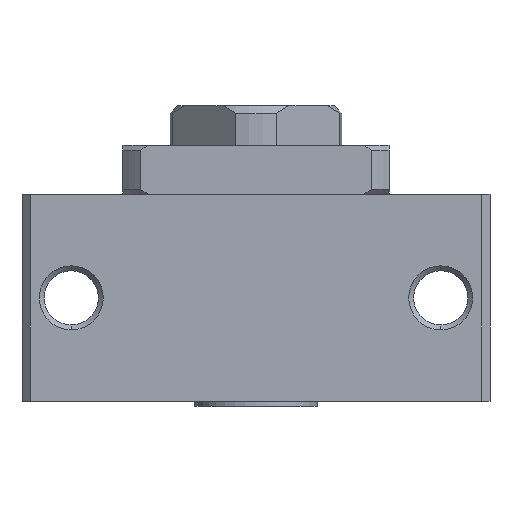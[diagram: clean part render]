
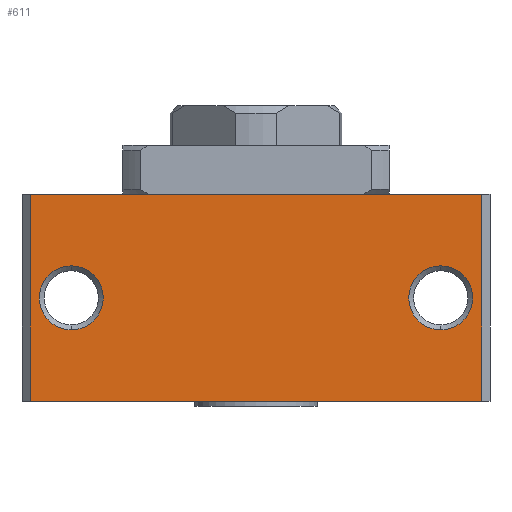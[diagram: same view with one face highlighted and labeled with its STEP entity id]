
A CAD part, front view. The second image highlights one B-rep face of the part: STEP entity #611.
In plain terms, the highlighted planar face has unit normal (0, -1, 0).
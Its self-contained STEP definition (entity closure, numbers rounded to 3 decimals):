
#114 = CARTESIAN_POINT ( 'NONE',  ( -45.82, -30., 0. ) ) ;
#253 = AXIS2_PLACEMENT_3D ( 'NONE', #2741, #1082, #1478 ) ;
#308 = CIRCLE ( 'NONE', #560, 6.5 ) ;
#387 = CARTESIAN_POINT ( 'NONE',  ( -45.82, -30., -42. ) ) ;
#447 = EDGE_CURVE ( 'NONE', #1828, #868, #1579, .T. ) ;
#504 = EDGE_CURVE ( 'NONE', #868, #3476, #3296, .T. ) ;
#560 = AXIS2_PLACEMENT_3D ( 'NONE', #4153, #2955, #921 ) ;
#588 = CARTESIAN_POINT ( 'NONE',  ( 37.5, -30., -27.5 ) ) ;
#589 = VERTEX_POINT ( 'NONE', #3323 ) ;
#611 = ADVANCED_FACE ( 'NONE', ( #4002, #3166, #4749 ), #2378, .T. ) ;
#629 = CARTESIAN_POINT ( 'NONE',  ( 37.5, -30., -21. ) ) ;
#672 = EDGE_CURVE ( 'NONE', #1279, #5074, #308, .T. ) ;
#693 = ORIENTED_EDGE ( 'NONE', *, *, #1980, .F. ) ;
#868 = VERTEX_POINT ( 'NONE', #2218 ) ;
#921 = DIRECTION ( 'NONE',  ( 0., 0., -1. ) ) ;
#976 = CARTESIAN_POINT ( 'NONE',  ( -37.5, -30., -14.5 ) ) ;
#1082 = DIRECTION ( 'NONE',  ( 0., -1., 0. ) ) ;
#1087 = VECTOR ( 'NONE', #1778, 1000. ) ;
#1180 = DIRECTION ( 'NONE',  ( 0., 0., 1. ) ) ;
#1272 = CIRCLE ( 'NONE', #2102, 6.5 ) ;
#1276 = DIRECTION ( 'NONE',  ( 0., 0., 1. ) ) ;
#1279 = VERTEX_POINT ( 'NONE', #588 ) ;
#1344 = DIRECTION ( 'NONE',  ( 0., 0., -1. ) ) ;
#1346 = EDGE_LOOP ( 'NONE', ( #4980, #4208, #3704, #2234 ) ) ;
#1374 = VECTOR ( 'NONE', #1276, 1000. ) ;
#1478 = DIRECTION ( 'NONE',  ( 0., 0., -1. ) ) ;
#1579 = LINE ( 'NONE', #3245, #2498 ) ;
#1620 = VERTEX_POINT ( 'NONE', #2494 ) ;
#1633 = DIRECTION ( 'NONE',  ( 0., -1., 0. ) ) ;
#1739 = DIRECTION ( 'NONE',  ( 0., -1., 0. ) ) ;
#1778 = DIRECTION ( 'NONE',  ( 1., 0., 0. ) ) ;
#1817 = VERTEX_POINT ( 'NONE', #976 ) ;
#1828 = VERTEX_POINT ( 'NONE', #3357 ) ;
#1856 = ORIENTED_EDGE ( 'NONE', *, *, #672, .F. ) ;
#1916 = EDGE_CURVE ( 'NONE', #5074, #1279, #2937, .T. ) ;
#1943 = CARTESIAN_POINT ( 'NONE',  ( -37.5, -30., -21. ) ) ;
#1955 = CARTESIAN_POINT ( 'NONE',  ( -45.82, -30., -42. ) ) ;
#1971 = EDGE_CURVE ( 'NONE', #589, #1817, #2518, .T. ) ;
#1980 = EDGE_CURVE ( 'NONE', #1817, #589, #1272, .T. ) ;
#2102 = AXIS2_PLACEMENT_3D ( 'NONE', #1943, #3112, #2715 ) ;
#2218 = CARTESIAN_POINT ( 'NONE',  ( -45.82, -30., 0. ) ) ;
#2234 = ORIENTED_EDGE ( 'NONE', *, *, #3149, .T. ) ;
#2332 = EDGE_CURVE ( 'NONE', #1828, #1620, #4325, .T. ) ;
#2378 = PLANE ( 'NONE',  #4395 ) ;
#2494 = CARTESIAN_POINT ( 'NONE',  ( 45.82, -30., -42. ) ) ;
#2498 = VECTOR ( 'NONE', #1180, 1000. ) ;
#2518 = CIRCLE ( 'NONE', #253, 6.5 ) ;
#2715 = DIRECTION ( 'NONE',  ( 0., 0., -1. ) ) ;
#2741 = CARTESIAN_POINT ( 'NONE',  ( -37.5, -30., -21. ) ) ;
#2744 = EDGE_LOOP ( 'NONE', ( #693, #3678 ) ) ;
#2937 = CIRCLE ( 'NONE', #4598, 6.5 ) ;
#2955 = DIRECTION ( 'NONE',  ( 0., -1., 0. ) ) ;
#3112 = DIRECTION ( 'NONE',  ( 0., -1., 0. ) ) ;
#3140 = VECTOR ( 'NONE', #4018, 1000. ) ;
#3149 = EDGE_CURVE ( 'NONE', #1620, #3476, #3646, .T. ) ;
#3166 = FACE_BOUND ( 'NONE', #4292, .T. ) ;
#3178 = CARTESIAN_POINT ( 'NONE',  ( 37.5, -30., -14.5 ) ) ;
#3245 = CARTESIAN_POINT ( 'NONE',  ( -45.82, -30., -42. ) ) ;
#3296 = LINE ( 'NONE', #114, #1087 ) ;
#3323 = CARTESIAN_POINT ( 'NONE',  ( -37.5, -30., -27.5 ) ) ;
#3357 = CARTESIAN_POINT ( 'NONE',  ( -45.82, -30., -42. ) ) ;
#3476 = VERTEX_POINT ( 'NONE', #3959 ) ;
#3646 = LINE ( 'NONE', #4137, #1374 ) ;
#3678 = ORIENTED_EDGE ( 'NONE', *, *, #1971, .F. ) ;
#3704 = ORIENTED_EDGE ( 'NONE', *, *, #2332, .T. ) ;
#3959 = CARTESIAN_POINT ( 'NONE',  ( 45.82, -30., 0. ) ) ;
#4002 = FACE_BOUND ( 'NONE', #2744, .T. ) ;
#4018 = DIRECTION ( 'NONE',  ( 1., 0., 0. ) ) ;
#4137 = CARTESIAN_POINT ( 'NONE',  ( 45.82, -30., -42. ) ) ;
#4153 = CARTESIAN_POINT ( 'NONE',  ( 37.5, -30., -21. ) ) ;
#4208 = ORIENTED_EDGE ( 'NONE', *, *, #447, .F. ) ;
#4292 = EDGE_LOOP ( 'NONE', ( #4936, #1856 ) ) ;
#4325 = LINE ( 'NONE', #1955, #3140 ) ;
#4395 = AXIS2_PLACEMENT_3D ( 'NONE', #387, #1633, #5167 ) ;
#4598 = AXIS2_PLACEMENT_3D ( 'NONE', #629, #1739, #1344 ) ;
#4749 = FACE_OUTER_BOUND ( 'NONE', #1346, .T. ) ;
#4936 = ORIENTED_EDGE ( 'NONE', *, *, #1916, .F. ) ;
#4980 = ORIENTED_EDGE ( 'NONE', *, *, #504, .F. ) ;
#5074 = VERTEX_POINT ( 'NONE', #3178 ) ;
#5167 = DIRECTION ( 'NONE',  ( 0., 0., -1. ) ) ;
